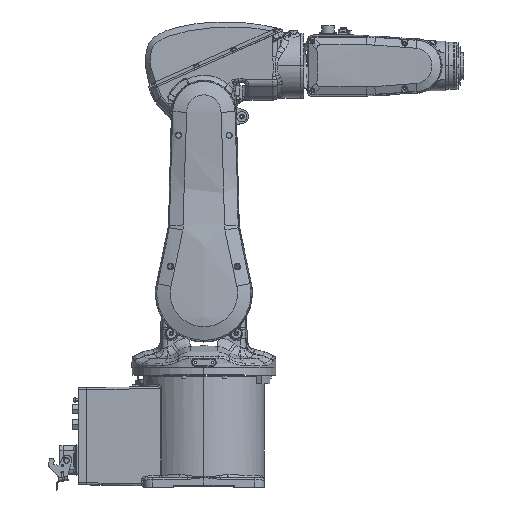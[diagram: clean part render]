
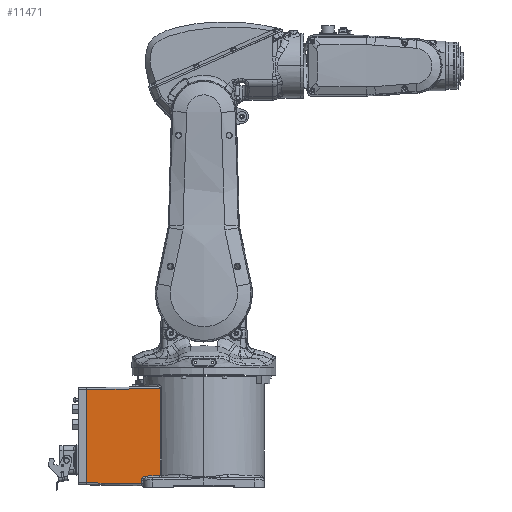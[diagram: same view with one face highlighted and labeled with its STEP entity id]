
A CAD part, top view. The second image highlights one B-rep face of the part: STEP entity #11471.
In plain terms, the highlighted planar face has unit normal (-0.018, 0, 1).
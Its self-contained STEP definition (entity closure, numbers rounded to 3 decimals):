
#1767 = EDGE_LOOP ( 'NONE', ( #16617, #11419, #57175, #21244, #106466, #120457, #91194, #113677 ) ) ;
#2172 = EDGE_CURVE ( 'NONE', #126263, #111846, #126047, .T. ) ;
#4105 = CARTESIAN_POINT ( 'NONE',  ( -176.948, 146.001, 61.501 ) ) ;
#4674 = CARTESIAN_POINT ( 'NONE',  ( -175., 149., 61.535 ) ) ;
#5283 = EDGE_CURVE ( 'NONE', #126263, #98352, #105041, .T. ) ;
#5679 = EDGE_CURVE ( 'NONE', #57801, #77172, #53762, .T. ) ;
#11419 = ORIENTED_EDGE ( 'NONE', *, *, #90895, .T. ) ;
#11471 = ADVANCED_FACE ( 'NONE', ( #114553 ), #132099, .T. ) ;
#12052 = CARTESIAN_POINT ( 'NONE',  ( -92.948, 11.052, 62.967 ) ) ;
#12620 = CARTESIAN_POINT ( 'NONE',  ( -174.671, 15.522, 61.541 ) ) ;
#13768 = CARTESIAN_POINT ( 'NONE',  ( -175., 6.965, 61.535 ) ) ;
#15141 = CARTESIAN_POINT ( 'NONE',  ( -66.437, 17.411, 63.43 ) ) ;
#16617 = ORIENTED_EDGE ( 'NONE', *, *, #79334, .F. ) ;
#18371 = CARTESIAN_POINT ( 'NONE',  ( -179.477, 7.043, 61.457 ) ) ;
#20132 = CARTESIAN_POINT ( 'NONE',  ( -65.658, 17.575, 63.443 ) ) ;
#21244 = ORIENTED_EDGE ( 'NONE', *, *, #106264, .F. ) ;
#22981 =( BOUNDED_CURVE ( )  B_SPLINE_CURVE ( 3, ( #77122, #121139, #77576, #12052 ),
 .UNSPECIFIED., .F., .F. ) 
 B_SPLINE_CURVE_WITH_KNOTS ( ( 4, 4 ),
 ( 4.73, 6.283 ),
 .UNSPECIFIED. ) 
 CURVE ( )  GEOMETRIC_REPRESENTATION_ITEM ( )  RATIONAL_B_SPLINE_CURVE ( ( 1., 0.809, 0.809, 1. ) ) 
 REPRESENTATION_ITEM ( '' )  );
#23559 = CARTESIAN_POINT ( 'NONE',  ( -177., 149., 61.5 ) ) ;
#29273 = CARTESIAN_POINT ( 'NONE',  ( -66.118, 17.435, 63.435 ) ) ;
#29886 = DIRECTION ( 'NONE',  ( 1., -0.017, 0.017 ) ) ;
#30794 = VERTEX_POINT ( 'NONE', #98413 ) ;
#39129 = EDGE_CURVE ( 'NONE', #88687, #98352, #89913, .T. ) ;
#40292 = CARTESIAN_POINT ( 'NONE',  ( -66.276, 17.414, 63.433 ) ) ;
#46463 = VECTOR ( 'NONE', #29886, 1000. ) ;
#50178 = VERTEX_POINT ( 'NONE', #13768 ) ;
#50476 = CARTESIAN_POINT ( 'NONE',  ( -92.948, 11.052, 62.967 ) ) ;
#52120 = CARTESIAN_POINT ( 'NONE',  ( -65.008, 18.424, 63.455 ) ) ;
#52596 = CARTESIAN_POINT ( 'NONE',  ( -65.257, 17.843, 63.45 ) ) ;
#53762 = LINE ( 'NONE', #73071, #134231 ) ;
#54837 = EDGE_CURVE ( 'NONE', #111846, #30794, #57003, .T. ) ;
#55805 = CARTESIAN_POINT ( 'NONE',  ( -92.948, 5.532, 62.967 ) ) ;
#57003 = LINE ( 'NONE', #4105, #84315 ) ;
#57175 = ORIENTED_EDGE ( 'NONE', *, *, #5679, .T. ) ;
#57570 = VECTOR ( 'NONE', #136792, 1000. ) ;
#57801 = VERTEX_POINT ( 'NONE', #55805 ) ;
#62702 = CARTESIAN_POINT ( 'NONE',  ( -65.008, 18.424, 63.455 ) ) ;
#70020 = AXIS2_PLACEMENT_3D ( 'NONE', #23559, #111103, #89512 ) ;
#73071 = CARTESIAN_POINT ( 'NONE',  ( -92.948, 14., 62.967 ) ) ;
#77122 = CARTESIAN_POINT ( 'NONE',  ( -87.052, 17.051, 63.07 ) ) ;
#77172 = VERTEX_POINT ( 'NONE', #50476 ) ;
#77576 = CARTESIAN_POINT ( 'NONE',  ( -92.948, 14.518, 62.967 ) ) ;
#79334 = EDGE_CURVE ( 'NONE', #50178, #30794, #137411, .T. ) ;
#83537 = DIRECTION ( 'NONE',  ( 0., 1., 0. ) ) ;
#83740 = CARTESIAN_POINT ( 'NONE',  ( -65.81, 17.515, 63.441 ) ) ;
#84032 = DIRECTION ( 'NONE',  ( 0., 1., 0. ) ) ;
#84315 = VECTOR ( 'NONE', #135158, 1000. ) ;
#85603 = CARTESIAN_POINT ( 'NONE',  ( -65.383, 17.738, 63.448 ) ) ;
#86420 = CARTESIAN_POINT ( 'NONE',  ( -87.052, 17.051, 63.07 ) ) ;
#88687 = VERTEX_POINT ( 'NONE', #86420 ) ;
#88800 = CARTESIAN_POINT ( 'NONE',  ( -65.008, 147.955, 63.455 ) ) ;
#89151 = DIRECTION ( 'NONE',  ( 1., 0.017, 0.017 ) ) ;
#89512 = DIRECTION ( 'NONE',  ( 1., 0., 0.017 ) ) ;
#89913 = LINE ( 'NONE', #12620, #137767 ) ;
#90895 = EDGE_CURVE ( 'NONE', #50178, #57801, #104615, .T. ) ;
#91194 = ORIENTED_EDGE ( 'NONE', *, *, #2172, .T. ) ;
#96363 = VECTOR ( 'NONE', #83537, 1000. ) ;
#98352 = VERTEX_POINT ( 'NONE', #15141 ) ;
#98413 = CARTESIAN_POINT ( 'NONE',  ( -175., 146.035, 61.535 ) ) ;
#98975 = CARTESIAN_POINT ( 'NONE',  ( -66.437, 17.411, 63.43 ) ) ;
#100947 = CARTESIAN_POINT ( 'NONE',  ( -65.008, 149., 63.455 ) ) ;
#104615 = LINE ( 'NONE', #18371, #46463 ) ;
#105041 = B_SPLINE_CURVE_WITH_KNOTS ( 'NONE', 3,
 ( #52120, #118150, #127226, #52596, #85603, #20132, #83740, #29273, #40292, #98975 ),
 .UNSPECIFIED., .F., .F.,
 ( 4, 2, 2, 2, 4 ),
 ( 0., 0., 0.001, 0.001, 0.002 ),
 .UNSPECIFIED. ) ;
#106264 = EDGE_CURVE ( 'NONE', #88687, #77172, #22981, .T. ) ;
#106466 = ORIENTED_EDGE ( 'NONE', *, *, #39129, .T. ) ;
#111103 = DIRECTION ( 'NONE',  ( -0.017, 0., 1. ) ) ;
#111846 = VERTEX_POINT ( 'NONE', #88800 ) ;
#113677 = ORIENTED_EDGE ( 'NONE', *, *, #54837, .T. ) ;
#114553 = FACE_OUTER_BOUND ( 'NONE', #1767, .T. ) ;
#118150 = CARTESIAN_POINT ( 'NONE',  ( -65.008, 18.261, 63.455 ) ) ;
#120457 = ORIENTED_EDGE ( 'NONE', *, *, #5283, .F. ) ;
#121139 = CARTESIAN_POINT ( 'NONE',  ( -90.518, 16.99, 63.01 ) ) ;
#126047 = LINE ( 'NONE', #100947, #57570 ) ;
#126263 = VERTEX_POINT ( 'NONE', #62702 ) ;
#127226 = CARTESIAN_POINT ( 'NONE',  ( -65.068, 18.104, 63.454 ) ) ;
#132099 = PLANE ( 'NONE',  #70020 ) ;
#134231 = VECTOR ( 'NONE', #84032, 1000. ) ;
#135158 = DIRECTION ( 'NONE',  ( -1., -0.017, -0.017 ) ) ;
#136792 = DIRECTION ( 'NONE',  ( 0., 1., 0. ) ) ;
#137411 = LINE ( 'NONE', #4674, #96363 ) ;
#137767 = VECTOR ( 'NONE', #89151, 1000. ) ;
